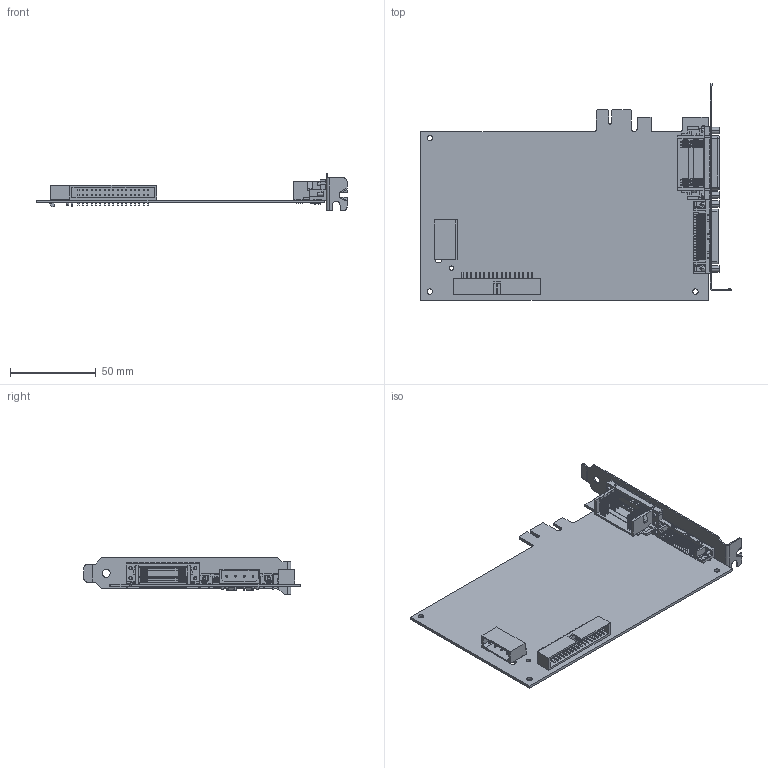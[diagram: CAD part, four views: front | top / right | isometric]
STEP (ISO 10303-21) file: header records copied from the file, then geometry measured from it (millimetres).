
FILE_DESCRIPTION((''),'2;1');
FILE_NAME('CU_PCIE-784XR_785XR','2015-10-30T',('dkendric'),(''),'PRO/ENGINEER BY PARAMETRIC TECHNOLOGY CORPORATION, 2015280','PRO/ENGINEER BY PARAMETRIC TECHNOLOGY CORPORATION, 2015280','');
FILE_SCHEMA(('CONFIG_CONTROL_DESIGN'));
Products named in the file (1): CU_PCIE-784XR_785XR
Bounding box: 181.02 x 126.21 x 21.59 mm (x, y, z)
Volume: 36435.7 mm3; surface area: 51900.2 mm2
Topology: 1 solids, 3 shells, 4900 faces, 13683 edges, 8961 vertices
Faces by surface type: plane 4096, cylinder 752, cone 28, bspline 16, sphere 8
Entity records: 156633 total; most frequent: CARTESIAN_POINT 28144, ORIENTED_EDGE 27366, DIRECTION 25057, EDGE_CURVE 13683, VECTOR 12021, LINE 12021, VERTEX_POINT 8961, AXIS2_PLACEMENT_3D 6518
